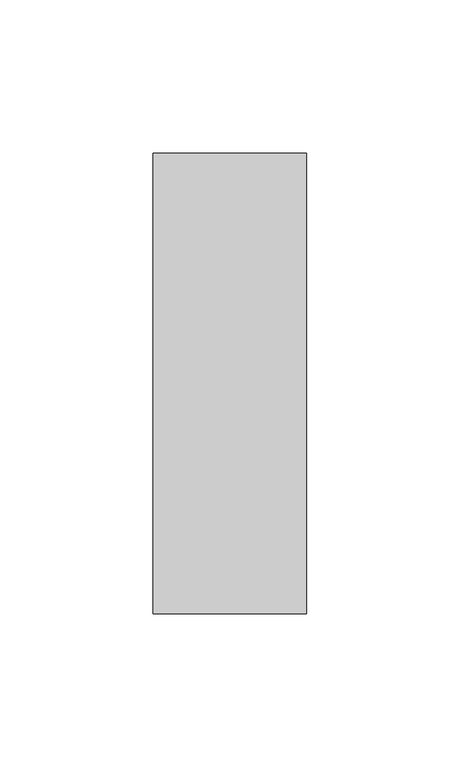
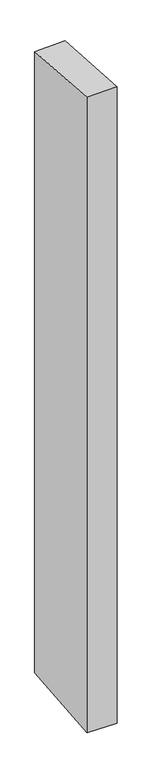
"""IFC4 building model written with IfcOpenShell, lengths in millimetres: member geometry, Прямоугольный импост : 50 x 150 мм."""

from ifc_helpers import new_model, si_unit, origin, place, context, project, spatial, faceted_brep, source, transform, mapped, element, save


def member_ec46c10a(model_context):
    return source(origin(), model_context, "Body", "Brep", [
        faceted_brep([(-25.0, 75.0, -5.8149256), (25.0, 75.0, -4.8293927), (25.0, 75.0, -1095.4001295), (-25.0, 75.0, -1094.5612447), (-25.0, -75.0, 4.8293927), (-25.0, -75.0, -1108.4777486), (25.0, -75.0, 5.8149256), (25.0, -75.0, -1109.3166334)], [[[0, 1, 2, 3]], [[4, 0, 3, 5]], [[6, 4, 5, 7]], [[1, 6, 7, 2]], [[1, 0, 4, 6]], [[2, 7, 5, 3]]]),
    ])


if __name__ == "__main__":
    model = new_model("IFC4")
    model_context = context("Model", 3, world=origin())
    ifc_project = project(units=[si_unit("LENGTHUNIT", "METRE", prefix="MILLI")], contexts=[model_context])
    site = spatial("IfcSite", under=ifc_project)
    building = spatial("IfcBuilding", under=site)
    placement = place(None, origin())
    member_shape = member_ec46c10a(model_context)
    element("IfcMember", 1, ObjectType="Прямоугольный импост : 50 x 150 мм", at=placement, inside=building, context=model_context, shape_type="MappedRepresentation", body=[
        mapped(member_shape, transform((0.0, 0.0, 0.0), x_axis=(1.0, 0.0, 0.0), y_axis=(0.0, 1.0, 0.0), z_axis=(0.0, 0.0, 1.0))),
    ])
    save(model, "model.ifc")
